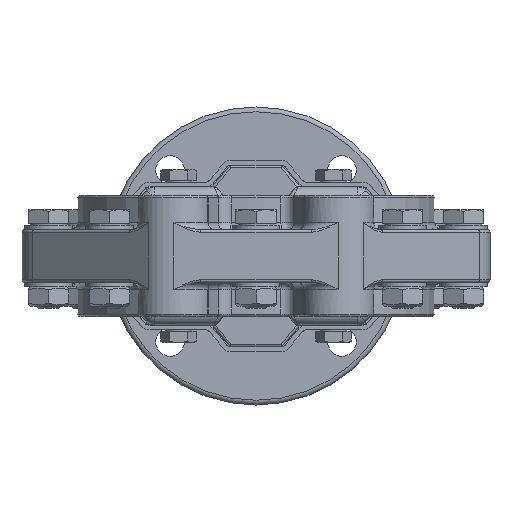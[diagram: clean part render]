
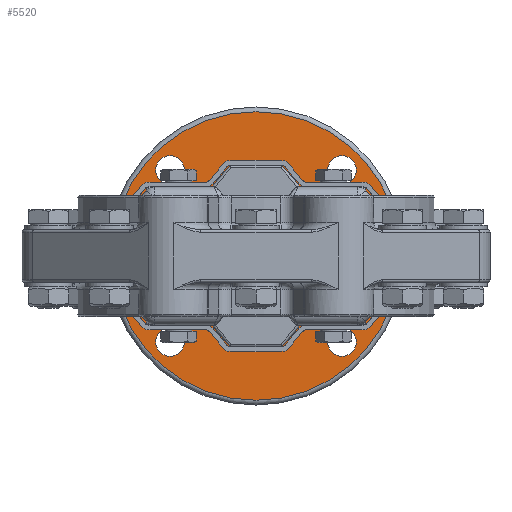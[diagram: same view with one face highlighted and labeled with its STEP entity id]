
A CAD part, front view. The second image highlights one B-rep face of the part: STEP entity #5520.
In plain terms, the highlighted planar face has unit normal (0, -1, 0).
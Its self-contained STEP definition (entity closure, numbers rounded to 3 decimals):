
#5520=ADVANCED_FACE('',(#9017,#9018,#9019,#9020,#9021,#9022,#9023,#9024,
#9025,#9026),#6689,.T.);
#6689=PLANE('',#40988);
#8107=CIRCLE('',#40978,4.5);
#8108=CIRCLE('',#40979,4.5);
#8109=CIRCLE('',#40980,4.5);
#8110=CIRCLE('',#40981,4.5);
#8111=CIRCLE('',#40982,6.);
#8112=CIRCLE('',#40983,6.);
#8113=CIRCLE('',#40984,6.);
#8114=CIRCLE('',#40985,6.);
#8115=CIRCLE('',#40986,27.);
#8116=CIRCLE('',#40987,60.5);
#9017=FACE_BOUND('',#11472,.T.);
#9018=FACE_BOUND('',#11473,.T.);
#9019=FACE_BOUND('',#11474,.T.);
#9020=FACE_BOUND('',#11475,.T.);
#9021=FACE_BOUND('',#11476,.T.);
#9022=FACE_BOUND('',#11477,.T.);
#9023=FACE_BOUND('',#11478,.T.);
#9024=FACE_BOUND('',#11479,.T.);
#9025=FACE_BOUND('',#11480,.T.);
#9026=FACE_BOUND('',#11481,.T.);
#11472=EDGE_LOOP('',(#25708));
#11473=EDGE_LOOP('',(#25709));
#11474=EDGE_LOOP('',(#25710));
#11475=EDGE_LOOP('',(#25711));
#11476=EDGE_LOOP('',(#25712));
#11477=EDGE_LOOP('',(#25713));
#11478=EDGE_LOOP('',(#25714));
#11479=EDGE_LOOP('',(#25715));
#11480=EDGE_LOOP('',(#25716));
#11481=EDGE_LOOP('',(#25717));
#25708=ORIENTED_EDGE('',*,*,#35583,.T.);
#25709=ORIENTED_EDGE('',*,*,#35584,.T.);
#25710=ORIENTED_EDGE('',*,*,#35585,.F.);
#25711=ORIENTED_EDGE('',*,*,#35586,.F.);
#25712=ORIENTED_EDGE('',*,*,#35587,.F.);
#25713=ORIENTED_EDGE('',*,*,#35588,.F.);
#25714=ORIENTED_EDGE('',*,*,#35589,.F.);
#25715=ORIENTED_EDGE('',*,*,#35590,.F.);
#25716=ORIENTED_EDGE('',*,*,#35591,.T.);
#25717=ORIENTED_EDGE('',*,*,#35592,.T.);
#30583=VERTEX_POINT('',#69501);
#30584=VERTEX_POINT('',#69503);
#30585=VERTEX_POINT('',#69505);
#30586=VERTEX_POINT('',#69507);
#30587=VERTEX_POINT('',#69509);
#30588=VERTEX_POINT('',#69511);
#30589=VERTEX_POINT('',#69513);
#30590=VERTEX_POINT('',#69515);
#30591=VERTEX_POINT('',#69517);
#30592=VERTEX_POINT('',#69519);
#35583=EDGE_CURVE('',#30583,#30583,#8107,.T.);
#35584=EDGE_CURVE('',#30584,#30584,#8108,.T.);
#35585=EDGE_CURVE('',#30585,#30585,#8109,.T.);
#35586=EDGE_CURVE('',#30586,#30586,#8110,.T.);
#35587=EDGE_CURVE('',#30587,#30587,#8111,.T.);
#35588=EDGE_CURVE('',#30588,#30588,#8112,.T.);
#35589=EDGE_CURVE('',#30589,#30589,#8113,.T.);
#35590=EDGE_CURVE('',#30590,#30590,#8114,.T.);
#35591=EDGE_CURVE('',#30591,#30591,#8115,.T.);
#35592=EDGE_CURVE('',#30592,#30592,#8116,.T.);
#40978=AXIS2_PLACEMENT_3D('',#69500,#49164,#49165);
#40979=AXIS2_PLACEMENT_3D('',#69502,#49166,#49167);
#40980=AXIS2_PLACEMENT_3D('',#69504,#49168,#49169);
#40981=AXIS2_PLACEMENT_3D('',#69506,#49170,#49171);
#40982=AXIS2_PLACEMENT_3D('',#69508,#49172,#49173);
#40983=AXIS2_PLACEMENT_3D('',#69510,#49174,#49175);
#40984=AXIS2_PLACEMENT_3D('',#69512,#49176,#49177);
#40985=AXIS2_PLACEMENT_3D('',#69514,#49178,#49179);
#40986=AXIS2_PLACEMENT_3D('',#69516,#49180,#49181);
#40987=AXIS2_PLACEMENT_3D('',#69518,#49182,#49183);
#40988=AXIS2_PLACEMENT_3D('',#69520,#49184,#49185);
#49164=DIRECTION('',(0.,1.,0.));
#49165=DIRECTION('',(0.,0.,-1.));
#49166=DIRECTION('',(0.,1.,0.));
#49167=DIRECTION('',(-1.,0.,0.));
#49168=DIRECTION('',(0.,-1.,0.));
#49169=DIRECTION('',(0.,0.,1.));
#49170=DIRECTION('',(0.,-1.,0.));
#49171=DIRECTION('',(0.,0.,1.));
#49172=DIRECTION('',(0.,-1.,0.));
#49173=DIRECTION('',(0.,0.,1.));
#49174=DIRECTION('',(0.,-1.,0.));
#49175=DIRECTION('',(0.,0.,1.));
#49176=DIRECTION('',(0.,-1.,0.));
#49177=DIRECTION('',(0.,0.,1.));
#49178=DIRECTION('',(0.,-1.,0.));
#49179=DIRECTION('',(0.,0.,1.));
#49180=DIRECTION('',(0.,1.,0.));
#49181=DIRECTION('',(0.,0.,1.));
#49182=DIRECTION('',(0.,-1.,0.));
#49183=DIRECTION('',(0.,0.,1.));
#49184=DIRECTION('',(0.,-1.,0.));
#49185=DIRECTION('',(0.,0.,1.));
#69500=CARTESIAN_POINT('',(24.749,352.,-24.749));
#69501=CARTESIAN_POINT('',(24.749,352.,-29.249));
#69502=CARTESIAN_POINT('',(-24.749,352.,-24.749));
#69503=CARTESIAN_POINT('',(-29.249,352.,-24.749));
#69504=CARTESIAN_POINT('',(-24.749,352.,24.749));
#69505=CARTESIAN_POINT('',(-24.749,352.,29.249));
#69506=CARTESIAN_POINT('',(24.749,352.,24.749));
#69507=CARTESIAN_POINT('',(24.749,352.,29.249));
#69508=CARTESIAN_POINT('',(36.062,352.,-36.062));
#69509=CARTESIAN_POINT('',(36.062,352.,-30.062));
#69510=CARTESIAN_POINT('',(-36.062,352.,-36.062));
#69511=CARTESIAN_POINT('',(-36.062,352.,-30.062));
#69512=CARTESIAN_POINT('',(36.062,352.,36.062));
#69513=CARTESIAN_POINT('',(36.062,352.,42.062));
#69514=CARTESIAN_POINT('',(-36.062,352.,36.062));
#69515=CARTESIAN_POINT('',(-36.062,352.,42.062));
#69516=CARTESIAN_POINT('',(0.,352.,0.));
#69517=CARTESIAN_POINT('',(0.,352.,27.));
#69518=CARTESIAN_POINT('',(0.,352.,0.));
#69519=CARTESIAN_POINT('',(0.,352.,60.5));
#69520=CARTESIAN_POINT('',(0.,352.,0.));
